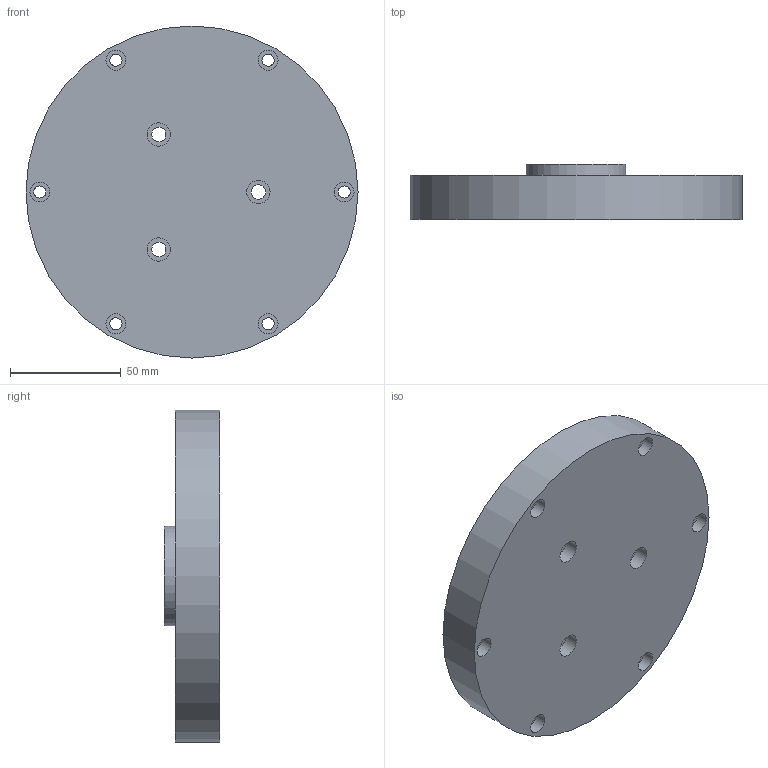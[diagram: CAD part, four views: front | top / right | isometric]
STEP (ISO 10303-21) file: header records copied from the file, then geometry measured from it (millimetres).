
FILE_DESCRIPTION(/* description */ (''),/* implementation_level */ '2;1');
FILE_NAME(/* name */ 'C:\Users\strothej\Documents\ActualDocuments\MicroscopeParts\TwoPhotonSystem\ScanningMechanics\v30\Drawings\Support_Rotation_Back_Plate.stp',/* time_stamp */ '2017-06-28T14:27:37-07:00',/* author */ ('strothej'),/* organization */ (''),/* preprocessor_version */ 'ST-DEVELOPER v16.1',/* originating_system */ 'Autodesk Inventor 2016',/* authorisation */ '');
FILE_SCHEMA (('AUTOMOTIVE_DESIGN { 1 0 10303 214 3 1 1 }'));
Length unit declared in the file: millimetre
Products named in the file (1): Support_Rotation_Back_Plate
Bounding box: 150 x 25 x 150 mm (x, y, z)
Volume: 354079.7 mm3; surface area: 49022 mm2
Topology: 1 solids, 1 shells, 39 faces, 75 edges, 50 vertices
Faces by surface type: cylinder 23, plane 16
Full cylindrical faces by diameter (mm): 3 x1, 5.5 x6, 6.5 x3, 9 x6, 10.5 x3, 45 x1, 150 x1
Entity records: 970 total; most frequent: DIRECTION 180, CARTESIAN_POINT 144, ORIENTED_EDGE 108, EDGE_LOOP 90, AXIS2_PLACEMENT_3D 86, EDGE_CURVE 54, FACE_BOUND 51, VERTEX_POINT 50
